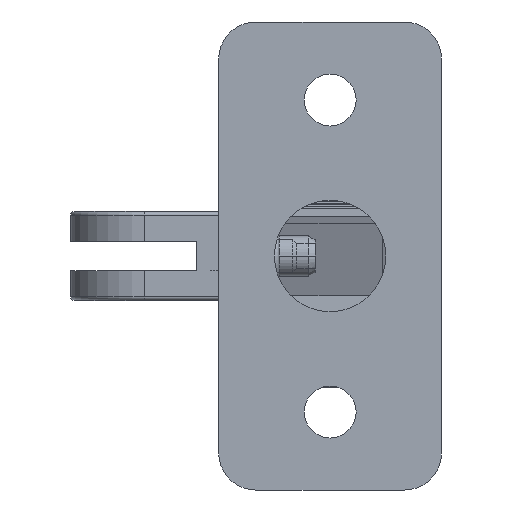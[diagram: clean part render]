
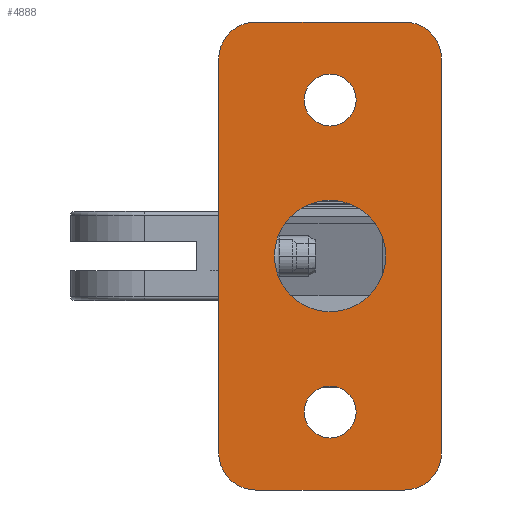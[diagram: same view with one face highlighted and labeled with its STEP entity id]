
A CAD part, front view. The second image highlights one B-rep face of the part: STEP entity #4888.
In plain terms, the highlighted planar face has unit normal (0, -1, 0).
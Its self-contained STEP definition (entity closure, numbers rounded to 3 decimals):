
#445 = VECTOR ( 'NONE', #8311, 1000. ) ;
#516 = AXIS2_PLACEMENT_3D ( 'NONE', #5755, #1548, #6460 ) ;
#608 = ORIENTED_EDGE ( 'NONE', *, *, #4648, .F. ) ;
#637 = DIRECTION ( 'NONE',  ( 1., 0., 0. ) ) ;
#674 = EDGE_CURVE ( 'NONE', #1622, #7178, #6707, .T. ) ;
#695 = CARTESIAN_POINT ( 'NONE',  ( -7., -8., 42. ) ) ;
#697 = DIRECTION ( 'NONE',  ( 0., 1., 0. ) ) ;
#791 = VERTEX_POINT ( 'NONE', #4444 ) ;
#843 = CIRCLE ( 'NONE', #1149, 7. ) ;
#879 = VERTEX_POINT ( 'NONE', #7346 ) ;
#898 = VERTEX_POINT ( 'NONE', #8749 ) ;
#928 = EDGE_CURVE ( 'NONE', #1461, #879, #2857, .T. ) ;
#1057 = PLANE ( 'NONE',  #6493 ) ;
#1149 = AXIS2_PLACEMENT_3D ( 'NONE', #4896, #697, #5605 ) ;
#1156 = FACE_BOUND ( 'NONE', #3281, .T. ) ;
#1179 = VECTOR ( 'NONE', #3666, 1000. ) ;
#1228 = CARTESIAN_POINT ( 'NONE',  ( 0., -8., -42. ) ) ;
#1461 = VERTEX_POINT ( 'NONE', #8073 ) ;
#1548 = DIRECTION ( 'NONE',  ( 0., 1., 0. ) ) ;
#1601 = CIRCLE ( 'NONE', #2514, 15. ) ;
#1622 = VERTEX_POINT ( 'NONE', #3344 ) ;
#1699 = CARTESIAN_POINT ( 'NONE',  ( 20., -8., -53. ) ) ;
#1722 = CIRCLE ( 'NONE', #2461, 10. ) ;
#1747 = CARTESIAN_POINT ( 'NONE',  ( 7., -8., 42. ) ) ;
#1815 = ORIENTED_EDGE ( 'NONE', *, *, #8285, .T. ) ;
#1857 = CARTESIAN_POINT ( 'NONE',  ( 7., -8., -42. ) ) ;
#1864 = EDGE_CURVE ( 'NONE', #1997, #5313, #5833, .T. ) ;
#1925 = DIRECTION ( 'NONE',  ( -1., 0., 0. ) ) ;
#1978 = ORIENTED_EDGE ( 'NONE', *, *, #1864, .F. ) ;
#1997 = VERTEX_POINT ( 'NONE', #3515 ) ;
#2024 = AXIS2_PLACEMENT_3D ( 'NONE', #2481, #7409, #3205 ) ;
#2053 = CIRCLE ( 'NONE', #8579, 7. ) ;
#2285 = EDGE_CURVE ( 'NONE', #6492, #4179, #2521, .T. ) ;
#2405 = DIRECTION ( 'NONE',  ( 1., 0., 0. ) ) ;
#2410 = CARTESIAN_POINT ( 'NONE',  ( 20., -8., 53. ) ) ;
#2461 = AXIS2_PLACEMENT_3D ( 'NONE', #9033, #4848, #637 ) ;
#2481 = CARTESIAN_POINT ( 'NONE',  ( 0., -8., 0. ) ) ;
#2514 = AXIS2_PLACEMENT_3D ( 'NONE', #2901, #7811, #3595 ) ;
#2521 = CIRCLE ( 'NONE', #2024, 15. ) ;
#2857 = LINE ( 'NONE', #5300, #8237 ) ;
#2901 = CARTESIAN_POINT ( 'NONE',  ( 0., -8., 0. ) ) ;
#2904 = DIRECTION ( 'NONE',  ( 0., 1., 0. ) ) ;
#2919 = EDGE_CURVE ( 'NONE', #5313, #3075, #6145, .T. ) ;
#3075 = VERTEX_POINT ( 'NONE', #3809 ) ;
#3127 = DIRECTION ( 'NONE',  ( 1., 0., 0. ) ) ;
#3182 = ORIENTED_EDGE ( 'NONE', *, *, #5096, .F. ) ;
#3188 = DIRECTION ( 'NONE',  ( 1., 0., 0. ) ) ;
#3205 = DIRECTION ( 'NONE',  ( -1., 0., 0. ) ) ;
#3223 = EDGE_CURVE ( 'NONE', #4530, #791, #2053, .T. ) ;
#3227 = AXIS2_PLACEMENT_3D ( 'NONE', #4148, #9040, #4858 ) ;
#3276 = CIRCLE ( 'NONE', #3227, 7. ) ;
#3281 = EDGE_LOOP ( 'NONE', ( #8431, #1815 ) ) ;
#3312 = EDGE_CURVE ( 'NONE', #5190, #6064, #3276, .T. ) ;
#3344 = CARTESIAN_POINT ( 'NONE',  ( -30., -8., -53. ) ) ;
#3430 = EDGE_LOOP ( 'NONE', ( #7873, #3435 ) ) ;
#3435 = ORIENTED_EDGE ( 'NONE', *, *, #3312, .T. ) ;
#3478 = CIRCLE ( 'NONE', #516, 10. ) ;
#3513 = ORIENTED_EDGE ( 'NONE', *, *, #2919, .F. ) ;
#3515 = CARTESIAN_POINT ( 'NONE',  ( 30., -8., -53. ) ) ;
#3531 = ORIENTED_EDGE ( 'NONE', *, *, #8057, .F. ) ;
#3595 = DIRECTION ( 'NONE',  ( -1., 0., 0. ) ) ;
#3660 = ORIENTED_EDGE ( 'NONE', *, *, #928, .F. ) ;
#3666 = DIRECTION ( 'NONE',  ( -1., 0., 0. ) ) ;
#3809 = CARTESIAN_POINT ( 'NONE',  ( -20., -8., -63. ) ) ;
#3813 = CARTESIAN_POINT ( 'NONE',  ( -30., -8., 53. ) ) ;
#3856 = CARTESIAN_POINT ( 'NONE',  ( -20., -8., -53. ) ) ;
#4096 = ORIENTED_EDGE ( 'NONE', *, *, #8949, .T. ) ;
#4105 = CARTESIAN_POINT ( 'NONE',  ( 30., -8., -53. ) ) ;
#4148 = CARTESIAN_POINT ( 'NONE',  ( 0., -8., 42. ) ) ;
#4179 = VERTEX_POINT ( 'NONE', #5654 ) ;
#4315 = CARTESIAN_POINT ( 'NONE',  ( -30., -8., -53. ) ) ;
#4378 = CARTESIAN_POINT ( 'NONE',  ( -20., -8., -63. ) ) ;
#4444 = CARTESIAN_POINT ( 'NONE',  ( -7., -8., -42. ) ) ;
#4530 = VERTEX_POINT ( 'NONE', #1857 ) ;
#4637 = AXIS2_PLACEMENT_3D ( 'NONE', #2410, #7331, #3127 ) ;
#4648 = EDGE_CURVE ( 'NONE', #3075, #1622, #1722, .T. ) ;
#4664 = CIRCLE ( 'NONE', #4637, 10. ) ;
#4848 = DIRECTION ( 'NONE',  ( 0., 1., 0. ) ) ;
#4858 = DIRECTION ( 'NONE',  ( -1., 0., 0. ) ) ;
#4888 = ADVANCED_FACE ( 'NONE', ( #6782, #4910, #5141, #1156 ), #1057, .T. ) ;
#4896 = CARTESIAN_POINT ( 'NONE',  ( 0., -8., -42. ) ) ;
#4910 = FACE_OUTER_BOUND ( 'NONE', #6254, .T. ) ;
#4947 = EDGE_LOOP ( 'NONE', ( #5333, #4096 ) ) ;
#5096 = EDGE_CURVE ( 'NONE', #898, #1997, #7697, .T. ) ;
#5130 = CIRCLE ( 'NONE', #6577, 7. ) ;
#5141 = FACE_BOUND ( 'NONE', #4947, .T. ) ;
#5190 = VERTEX_POINT ( 'NONE', #695 ) ;
#5300 = CARTESIAN_POINT ( 'NONE',  ( -20., -8., 63. ) ) ;
#5313 = VERTEX_POINT ( 'NONE', #5696 ) ;
#5333 = ORIENTED_EDGE ( 'NONE', *, *, #2285, .T. ) ;
#5605 = DIRECTION ( 'NONE',  ( -1., 0., 0. ) ) ;
#5654 = CARTESIAN_POINT ( 'NONE',  ( -15., -8., 0. ) ) ;
#5696 = CARTESIAN_POINT ( 'NONE',  ( 20., -8., -63. ) ) ;
#5755 = CARTESIAN_POINT ( 'NONE',  ( -20., -8., 53. ) ) ;
#5833 = CIRCLE ( 'NONE', #8683, 10. ) ;
#6064 = VERTEX_POINT ( 'NONE', #1747 ) ;
#6145 = LINE ( 'NONE', #4378, #1179 ) ;
#6151 = DIRECTION ( 'NONE',  ( 0., 1., 0. ) ) ;
#6254 = EDGE_LOOP ( 'NONE', ( #608, #3513, #1978, #3182, #3531, #3660, #6955, #7957 ) ) ;
#6442 = CARTESIAN_POINT ( 'NONE',  ( 15., -8., 0. ) ) ;
#6460 = DIRECTION ( 'NONE',  ( -1., 0., 0. ) ) ;
#6492 = VERTEX_POINT ( 'NONE', #6442 ) ;
#6493 = AXIS2_PLACEMENT_3D ( 'NONE', #3856, #7396, #3188 ) ;
#6577 = AXIS2_PLACEMENT_3D ( 'NONE', #7109, #2904, #7814 ) ;
#6632 = DIRECTION ( 'NONE',  ( 0., 1., 0. ) ) ;
#6707 = LINE ( 'NONE', #4315, #6928 ) ;
#6782 = FACE_BOUND ( 'NONE', #3430, .T. ) ;
#6928 = VECTOR ( 'NONE', #8519, 1000. ) ;
#6955 = ORIENTED_EDGE ( 'NONE', *, *, #8403, .F. ) ;
#7109 = CARTESIAN_POINT ( 'NONE',  ( 0., -8., 42. ) ) ;
#7178 = VERTEX_POINT ( 'NONE', #3813 ) ;
#7331 = DIRECTION ( 'NONE',  ( 0., 1., 0. ) ) ;
#7346 = CARTESIAN_POINT ( 'NONE',  ( 20., -8., 63. ) ) ;
#7396 = DIRECTION ( 'NONE',  ( 0., -1., 0. ) ) ;
#7409 = DIRECTION ( 'NONE',  ( 0., 1., 0. ) ) ;
#7481 = EDGE_CURVE ( 'NONE', #6064, #5190, #5130, .T. ) ;
#7697 = LINE ( 'NONE', #4105, #445 ) ;
#7811 = DIRECTION ( 'NONE',  ( 0., 1., 0. ) ) ;
#7814 = DIRECTION ( 'NONE',  ( -1., 0., 0. ) ) ;
#7873 = ORIENTED_EDGE ( 'NONE', *, *, #7481, .T. ) ;
#7957 = ORIENTED_EDGE ( 'NONE', *, *, #674, .F. ) ;
#8057 = EDGE_CURVE ( 'NONE', #879, #898, #4664, .T. ) ;
#8073 = CARTESIAN_POINT ( 'NONE',  ( -20., -8., 63. ) ) ;
#8237 = VECTOR ( 'NONE', #8804, 1000. ) ;
#8285 = EDGE_CURVE ( 'NONE', #791, #4530, #843, .T. ) ;
#8311 = DIRECTION ( 'NONE',  ( 0., 0., -1. ) ) ;
#8403 = EDGE_CURVE ( 'NONE', #7178, #1461, #3478, .T. ) ;
#8431 = ORIENTED_EDGE ( 'NONE', *, *, #3223, .T. ) ;
#8519 = DIRECTION ( 'NONE',  ( 0., 0., 1. ) ) ;
#8579 = AXIS2_PLACEMENT_3D ( 'NONE', #1228, #6151, #1925 ) ;
#8683 = AXIS2_PLACEMENT_3D ( 'NONE', #1699, #6632, #2405 ) ;
#8749 = CARTESIAN_POINT ( 'NONE',  ( 30., -8., 53. ) ) ;
#8804 = DIRECTION ( 'NONE',  ( 1., 0., 0. ) ) ;
#8949 = EDGE_CURVE ( 'NONE', #4179, #6492, #1601, .T. ) ;
#9033 = CARTESIAN_POINT ( 'NONE',  ( -20., -8., -53. ) ) ;
#9040 = DIRECTION ( 'NONE',  ( 0., 1., 0. ) ) ;
